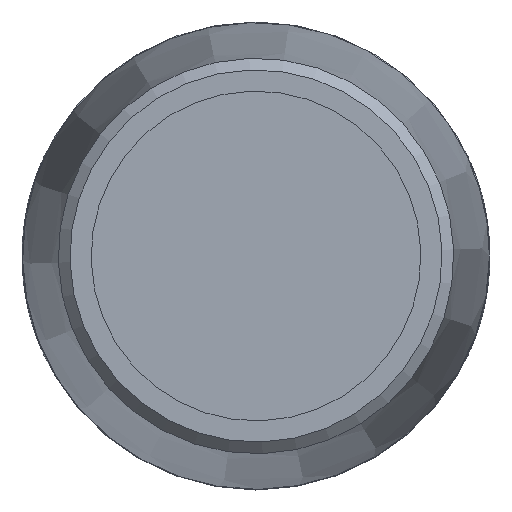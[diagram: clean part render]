
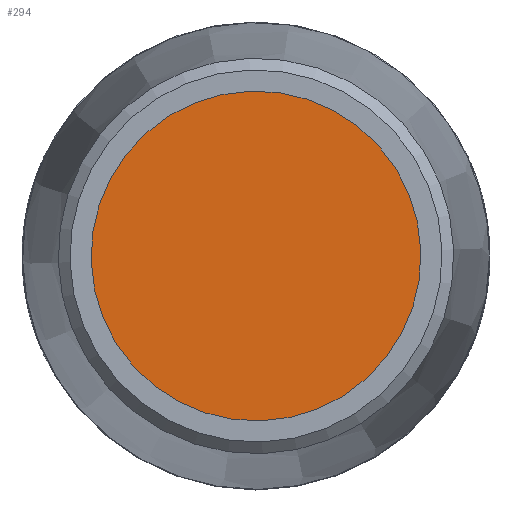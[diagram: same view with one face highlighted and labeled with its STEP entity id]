
A CAD part, left-side view. The second image highlights one B-rep face of the part: STEP entity #294.
In plain terms, the highlighted planar face has unit normal (-1, 0, 0).
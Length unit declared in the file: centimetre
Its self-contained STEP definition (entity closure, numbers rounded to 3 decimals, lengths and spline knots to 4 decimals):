
#48=PLANE('',#329);
#77=FACE_OUTER_BOUND('',#108,.T.);
#108=EDGE_LOOP('',(#214));
#134=CIRCLE('',#328,0.74);
#148=VERTEX_POINT('',#455);
#174=EDGE_CURVE('',#148,#148,#134,.T.);
#214=ORIENTED_EDGE('',*,*,#174,.T.);
#294=ADVANCED_FACE('',(#77),#48,.T.);
#328=AXIS2_PLACEMENT_3D('',#456,#387,#388);
#329=AXIS2_PLACEMENT_3D('',#457,#389,#390);
#387=DIRECTION('center_axis',(-1.,0.,0.));
#388=DIRECTION('ref_axis',(0.,0.668,0.744));
#389=DIRECTION('center_axis',(-1.,0.,0.));
#390=DIRECTION('ref_axis',(0.,0.668,0.744));
#455=CARTESIAN_POINT('',(-5.3,-0.5507,0.4943));
#456=CARTESIAN_POINT('Origin',(-5.3,0.,0.));
#457=CARTESIAN_POINT('Origin',(-5.3,0.,0.));
